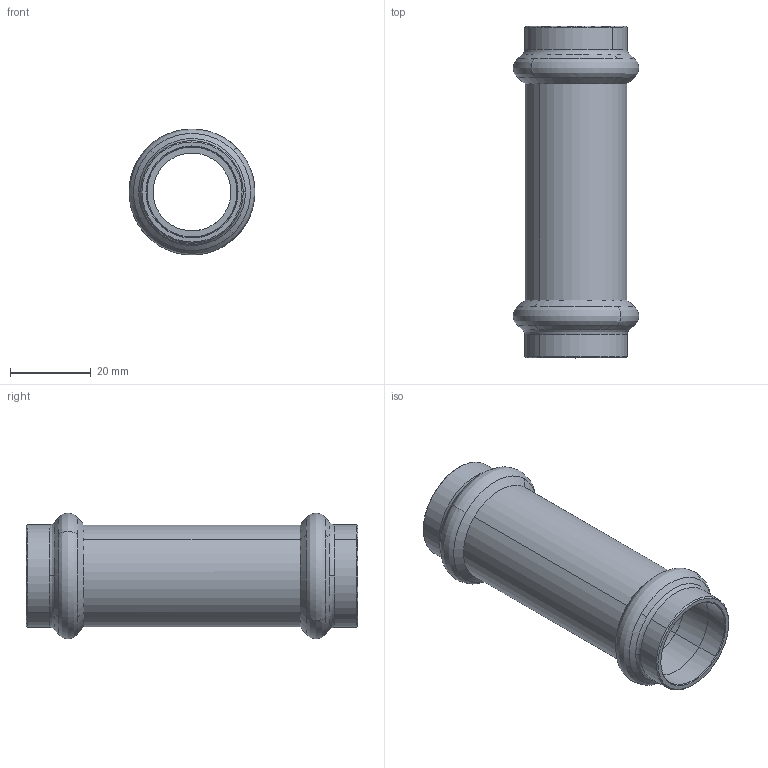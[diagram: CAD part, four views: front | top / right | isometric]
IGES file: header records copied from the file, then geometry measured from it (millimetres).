
Start section: Elysium IGES Interface
Global section: file name: C:\Users\Wallenburg\Desktop\3d modellen sudo\S-Pr VP\SP6275V\6275VW22.igs; native system: CoCreate Modeling 17.00A  17-Jun-2010; preprocessor: CoCreate IGES_3D V2.2; author: Unknown; organization: Unknown; date: 20130110.142941; units: millimetre
Bounding box: 31.19 x 82.2 x 31.18 mm (x, y, z)
Volume: 12083.8 mm3; surface area: 13435.6 mm2
Topology: 1 solids, 1 shells, 58 faces, 152 edges, 98 vertices
Faces by surface type: bspline 58
